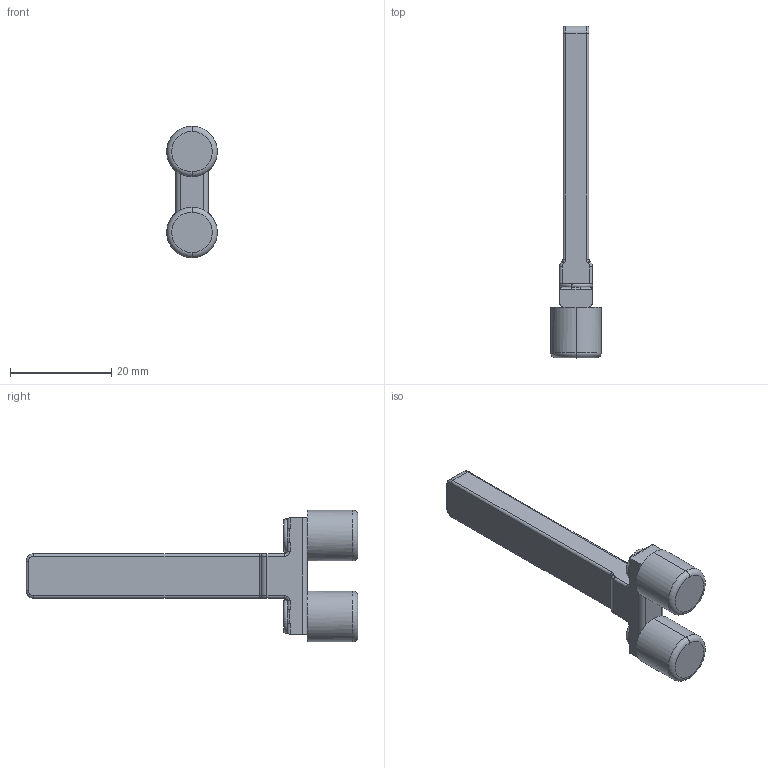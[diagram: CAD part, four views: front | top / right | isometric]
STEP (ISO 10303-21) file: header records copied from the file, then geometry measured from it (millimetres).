
FILE_DESCRIPTION (( 'STEP AP203' ), '1' );
FILE_NAME ('HT10016.STEP', '2022-06-28T06:31:33', ( 'Users' ), ( 'Microsoft' ), 'SwSTEP 2.0', 'SolidWorks 2018', '' );
FILE_SCHEMA (( 'CONFIG_CONTROL_DESIGN' ));
Length unit declared in the file: millimetre
Products named in the file (1): HT10016
Bounding box: 10 x 65.6 x 26 mm (x, y, z)
Volume: 4547.8 mm3; surface area: 2703.5 mm2
Topology: 1 solids, 1 shells, 142 faces, 342 edges, 208 vertices
Faces by surface type: plane 52, cylinder 48, torus 24, bspline 14, cone 4
Entity records: 4587 total; most frequent: CARTESIAN_POINT 1263, DIRECTION 690, ORIENTED_EDGE 684, EDGE_CURVE 342, AXIS2_PLACEMENT_3D 259, VERTEX_POINT 208, VECTOR 172, LINE 172
